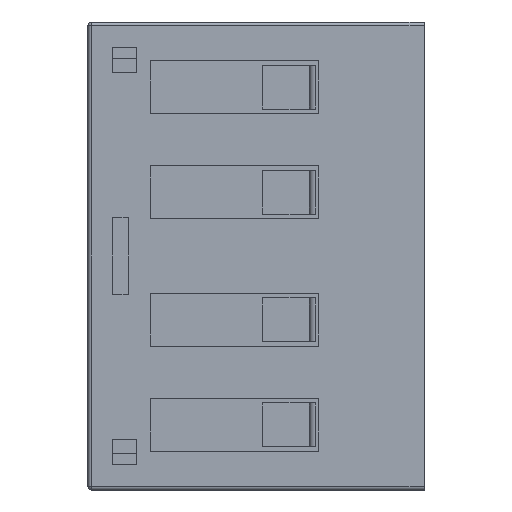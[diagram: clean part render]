
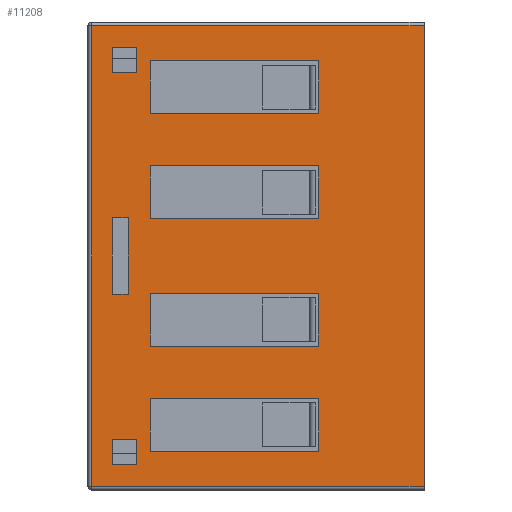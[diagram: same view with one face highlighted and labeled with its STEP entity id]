
A CAD part, left-side view. The second image highlights one B-rep face of the part: STEP entity #11208.
In plain terms, the highlighted planar face has unit normal (-1, 0, 0).
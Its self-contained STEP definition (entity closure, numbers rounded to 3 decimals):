
#326=FACE_BOUND('',#4042,.T.);
#327=FACE_BOUND('',#4043,.T.);
#328=FACE_BOUND('',#4044,.T.);
#329=FACE_BOUND('',#4045,.T.);
#330=FACE_BOUND('',#4046,.T.);
#331=FACE_BOUND('',#4047,.T.);
#332=FACE_BOUND('',#4048,.T.);
#428=LINE('',#16306,#1664);
#443=LINE('',#16339,#1679);
#456=LINE('',#16365,#1692);
#548=LINE('',#16564,#1784);
#642=LINE('',#16910,#1878);
#643=LINE('',#16911,#1879);
#644=LINE('',#16914,#1880);
#645=LINE('',#16916,#1881);
#646=LINE('',#16918,#1882);
#647=LINE('',#16919,#1883);
#648=LINE('',#16922,#1884);
#649=LINE('',#16924,#1885);
#650=LINE('',#16926,#1886);
#651=LINE('',#16927,#1887);
#652=LINE('',#16930,#1888);
#653=LINE('',#16932,#1889);
#654=LINE('',#16934,#1890);
#655=LINE('',#16935,#1891);
#656=LINE('',#16938,#1892);
#657=LINE('',#16940,#1893);
#658=LINE('',#16942,#1894);
#659=LINE('',#16943,#1895);
#660=LINE('',#16946,#1896);
#661=LINE('',#16948,#1897);
#662=LINE('',#16950,#1898);
#663=LINE('',#16951,#1899);
#664=LINE('',#16952,#1900);
#665=LINE('',#16953,#1901);
#666=LINE('',#16956,#1902);
#667=LINE('',#16958,#1903);
#668=LINE('',#16960,#1904);
#669=LINE('',#16961,#1905);
#1664=VECTOR('',#12979,1000.);
#1679=VECTOR('',#13004,1000.);
#1692=VECTOR('',#13023,1000.);
#1784=VECTOR('',#13161,1000.);
#1878=VECTOR('',#13417,1000.);
#1879=VECTOR('',#13418,1000.);
#1880=VECTOR('',#13419,1000.);
#1881=VECTOR('',#13420,1000.);
#1882=VECTOR('',#13421,1000.);
#1883=VECTOR('',#13422,1000.);
#1884=VECTOR('',#13423,1000.);
#1885=VECTOR('',#13424,1000.);
#1886=VECTOR('',#13425,1000.);
#1887=VECTOR('',#13426,1000.);
#1888=VECTOR('',#13427,1000.);
#1889=VECTOR('',#13428,1000.);
#1890=VECTOR('',#13429,1000.);
#1891=VECTOR('',#13430,1000.);
#1892=VECTOR('',#13431,1000.);
#1893=VECTOR('',#13432,1000.);
#1894=VECTOR('',#13433,1000.);
#1895=VECTOR('',#13434,1000.);
#1896=VECTOR('',#13435,1000.);
#1897=VECTOR('',#13436,1000.);
#1898=VECTOR('',#13437,1000.);
#1899=VECTOR('',#13438,1000.);
#1900=VECTOR('',#13439,1000.);
#1901=VECTOR('',#13440,1000.);
#1902=VECTOR('',#13441,1000.);
#1903=VECTOR('',#13442,1000.);
#1904=VECTOR('',#13443,1000.);
#1905=VECTOR('',#13444,1000.);
#2887=PLANE('',#11993);
#3368=FACE_OUTER_BOUND('',#4041,.T.);
#4041=EDGE_LOOP('',(#8269,#8270,#8271,#8272));
#4042=EDGE_LOOP('',(#8273,#8274,#8275,#8276));
#4043=EDGE_LOOP('',(#8277,#8278,#8279,#8280));
#4044=EDGE_LOOP('',(#8281,#8282,#8283,#8284));
#4045=EDGE_LOOP('',(#8285,#8286,#8287,#8288));
#4046=EDGE_LOOP('',(#8289,#8290,#8291,#8292));
#4047=EDGE_LOOP('',(#8293,#8294,#8295,#8296));
#4048=EDGE_LOOP('',(#8297,#8298,#8299,#8300));
#5093=VERTEX_POINT('',#16303);
#5094=VERTEX_POINT('',#16305);
#5106=VERTEX_POINT('',#16335);
#5107=VERTEX_POINT('',#16337);
#5113=VERTEX_POINT('',#16354);
#5117=VERTEX_POINT('',#16363);
#5201=VERTEX_POINT('',#16563);
#5324=VERTEX_POINT('',#16909);
#5325=VERTEX_POINT('',#16912);
#5326=VERTEX_POINT('',#16913);
#5327=VERTEX_POINT('',#16915);
#5328=VERTEX_POINT('',#16917);
#5329=VERTEX_POINT('',#16920);
#5330=VERTEX_POINT('',#16921);
#5331=VERTEX_POINT('',#16923);
#5332=VERTEX_POINT('',#16925);
#5333=VERTEX_POINT('',#16928);
#5334=VERTEX_POINT('',#16929);
#5335=VERTEX_POINT('',#16931);
#5336=VERTEX_POINT('',#16933);
#5337=VERTEX_POINT('',#16936);
#5338=VERTEX_POINT('',#16937);
#5339=VERTEX_POINT('',#16939);
#5340=VERTEX_POINT('',#16941);
#5341=VERTEX_POINT('',#16944);
#5342=VERTEX_POINT('',#16945);
#5343=VERTEX_POINT('',#16947);
#5344=VERTEX_POINT('',#16949);
#5345=VERTEX_POINT('',#16954);
#5346=VERTEX_POINT('',#16955);
#5347=VERTEX_POINT('',#16957);
#5348=VERTEX_POINT('',#16959);
#6187=EDGE_CURVE('',#5093,#5094,#428,.T.);
#6204=EDGE_CURVE('',#5106,#5107,#443,.T.);
#6217=EDGE_CURVE('',#5117,#5113,#456,.T.);
#6317=EDGE_CURVE('',#5106,#5201,#548,.T.);
#6472=EDGE_CURVE('',#5107,#5324,#642,.T.);
#6473=EDGE_CURVE('',#5324,#5201,#643,.T.);
#6474=EDGE_CURVE('',#5325,#5326,#644,.T.);
#6475=EDGE_CURVE('',#5326,#5327,#645,.T.);
#6476=EDGE_CURVE('',#5327,#5328,#646,.T.);
#6477=EDGE_CURVE('',#5328,#5325,#647,.T.);
#6478=EDGE_CURVE('',#5329,#5330,#648,.T.);
#6479=EDGE_CURVE('',#5330,#5331,#649,.T.);
#6480=EDGE_CURVE('',#5331,#5332,#650,.T.);
#6481=EDGE_CURVE('',#5332,#5329,#651,.T.);
#6482=EDGE_CURVE('',#5333,#5334,#652,.T.);
#6483=EDGE_CURVE('',#5335,#5333,#653,.T.);
#6484=EDGE_CURVE('',#5336,#5335,#654,.T.);
#6485=EDGE_CURVE('',#5334,#5336,#655,.T.);
#6486=EDGE_CURVE('',#5337,#5338,#656,.T.);
#6487=EDGE_CURVE('',#5339,#5337,#657,.T.);
#6488=EDGE_CURVE('',#5340,#5339,#658,.T.);
#6489=EDGE_CURVE('',#5338,#5340,#659,.T.);
#6490=EDGE_CURVE('',#5341,#5342,#660,.T.);
#6491=EDGE_CURVE('',#5343,#5341,#661,.T.);
#6492=EDGE_CURVE('',#5344,#5343,#662,.T.);
#6493=EDGE_CURVE('',#5342,#5344,#663,.T.);
#6494=EDGE_CURVE('',#5094,#5117,#664,.T.);
#6495=EDGE_CURVE('',#5113,#5093,#665,.T.);
#6496=EDGE_CURVE('',#5345,#5346,#666,.T.);
#6497=EDGE_CURVE('',#5347,#5345,#667,.T.);
#6498=EDGE_CURVE('',#5348,#5347,#668,.T.);
#6499=EDGE_CURVE('',#5346,#5348,#669,.T.);
#8269=ORIENTED_EDGE('',*,*,#6472,.T.);
#8270=ORIENTED_EDGE('',*,*,#6473,.T.);
#8271=ORIENTED_EDGE('',*,*,#6317,.F.);
#8272=ORIENTED_EDGE('',*,*,#6204,.T.);
#8273=ORIENTED_EDGE('',*,*,#6474,.T.);
#8274=ORIENTED_EDGE('',*,*,#6475,.T.);
#8275=ORIENTED_EDGE('',*,*,#6476,.T.);
#8276=ORIENTED_EDGE('',*,*,#6477,.T.);
#8277=ORIENTED_EDGE('',*,*,#6478,.T.);
#8278=ORIENTED_EDGE('',*,*,#6479,.T.);
#8279=ORIENTED_EDGE('',*,*,#6480,.T.);
#8280=ORIENTED_EDGE('',*,*,#6481,.T.);
#8281=ORIENTED_EDGE('',*,*,#6482,.F.);
#8282=ORIENTED_EDGE('',*,*,#6483,.F.);
#8283=ORIENTED_EDGE('',*,*,#6484,.F.);
#8284=ORIENTED_EDGE('',*,*,#6485,.F.);
#8285=ORIENTED_EDGE('',*,*,#6486,.F.);
#8286=ORIENTED_EDGE('',*,*,#6487,.F.);
#8287=ORIENTED_EDGE('',*,*,#6488,.F.);
#8288=ORIENTED_EDGE('',*,*,#6489,.F.);
#8289=ORIENTED_EDGE('',*,*,#6490,.F.);
#8290=ORIENTED_EDGE('',*,*,#6491,.F.);
#8291=ORIENTED_EDGE('',*,*,#6492,.F.);
#8292=ORIENTED_EDGE('',*,*,#6493,.F.);
#8293=ORIENTED_EDGE('',*,*,#6217,.F.);
#8294=ORIENTED_EDGE('',*,*,#6494,.F.);
#8295=ORIENTED_EDGE('',*,*,#6187,.F.);
#8296=ORIENTED_EDGE('',*,*,#6495,.F.);
#8297=ORIENTED_EDGE('',*,*,#6496,.F.);
#8298=ORIENTED_EDGE('',*,*,#6497,.F.);
#8299=ORIENTED_EDGE('',*,*,#6498,.F.);
#8300=ORIENTED_EDGE('',*,*,#6499,.F.);
#11208=ADVANCED_FACE('',(#3368,#326,#327,#328,#329,#330,#331,#332),#2887,
 .F.);
#11993=AXIS2_PLACEMENT_3D('',#16908,#13415,#13416);
#12979=DIRECTION('',(0.,0.,-1.));
#13004=DIRECTION('',(0.,1.,0.));
#13023=DIRECTION('',(0.,0.,1.));
#13161=DIRECTION('',(0.,0.,-1.));
#13415=DIRECTION('center_axis',(1.,0.,0.));
#13416=DIRECTION('ref_axis',(0.,0.,-1.));
#13417=DIRECTION('',(0.,0.,-1.));
#13418=DIRECTION('',(0.,-1.,0.));
#13419=DIRECTION('',(0.,-1.,0.));
#13420=DIRECTION('',(0.,0.,-1.));
#13421=DIRECTION('',(0.,1.,0.));
#13422=DIRECTION('',(0.,0.,1.));
#13423=DIRECTION('',(0.,-1.,0.));
#13424=DIRECTION('',(0.,0.,-1.));
#13425=DIRECTION('',(0.,1.,0.));
#13426=DIRECTION('',(0.,0.,1.));
#13427=DIRECTION('',(0.,0.,1.));
#13428=DIRECTION('',(0.,-1.,0.));
#13429=DIRECTION('',(0.,0.,-1.));
#13430=DIRECTION('',(0.,1.,0.));
#13431=DIRECTION('',(0.,0.,1.));
#13432=DIRECTION('',(0.,-1.,0.));
#13433=DIRECTION('',(0.,0.,-1.));
#13434=DIRECTION('',(0.,1.,0.));
#13435=DIRECTION('',(0.,0.,1.));
#13436=DIRECTION('',(0.,-1.,0.));
#13437=DIRECTION('',(0.,0.,-1.));
#13438=DIRECTION('',(0.,1.,0.));
#13439=DIRECTION('',(0.,-1.,0.));
#13440=DIRECTION('',(0.,1.,0.));
#13441=DIRECTION('',(0.,0.,1.));
#13442=DIRECTION('',(0.,-1.,0.));
#13443=DIRECTION('',(0.,0.,-1.));
#13444=DIRECTION('',(0.,1.,0.));
#16303=CARTESIAN_POINT('',(-36.55,11.75,17.05));
#16305=CARTESIAN_POINT('',(-36.55,11.75,15.05));
#16306=CARTESIAN_POINT('',(-36.55,11.75,15.05));
#16335=CARTESIAN_POINT('',(-36.55,-13.75,18.85));
#16337=CARTESIAN_POINT('',(-36.55,13.45,18.85));
#16339=CARTESIAN_POINT('',(-36.55,13.75,18.85));
#16354=CARTESIAN_POINT('',(-36.55,9.75,17.05));
#16363=CARTESIAN_POINT('',(-36.55,9.75,15.05));
#16365=CARTESIAN_POINT('',(-36.55,9.75,15.05));
#16563=CARTESIAN_POINT('',(-36.55,-13.75,-18.85));
#16564=CARTESIAN_POINT('',(-36.55,-13.75,19.15));
#16908=CARTESIAN_POINT('Origin',(-36.55,13.75,19.15));
#16909=CARTESIAN_POINT('',(-36.55,13.45,-18.85));
#16910=CARTESIAN_POINT('',(-36.55,13.45,19.15));
#16911=CARTESIAN_POINT('',(-36.55,13.75,-18.85));
#16912=CARTESIAN_POINT('',(-36.55,8.65,-3.075));
#16913=CARTESIAN_POINT('',(-36.55,-5.15,-3.075));
#16914=CARTESIAN_POINT('',(-36.55,8.65,-3.075));
#16915=CARTESIAN_POINT('',(-36.55,-5.15,-7.375));
#16916=CARTESIAN_POINT('',(-36.55,-5.15,-3.075));
#16917=CARTESIAN_POINT('',(-36.55,8.65,-7.375));
#16918=CARTESIAN_POINT('',(-36.55,8.65,-7.375));
#16919=CARTESIAN_POINT('',(-36.55,8.65,-3.075));
#16920=CARTESIAN_POINT('',(-36.55,8.65,-11.675));
#16921=CARTESIAN_POINT('',(-36.55,-5.15,-11.675));
#16922=CARTESIAN_POINT('',(-36.55,8.65,-11.675));
#16923=CARTESIAN_POINT('',(-36.55,-5.15,-15.975));
#16924=CARTESIAN_POINT('',(-36.55,-5.15,-11.675));
#16925=CARTESIAN_POINT('',(-36.55,8.65,-15.975));
#16926=CARTESIAN_POINT('',(-36.55,8.65,-15.975));
#16927=CARTESIAN_POINT('',(-36.55,8.65,-11.675));
#16928=CARTESIAN_POINT('',(-36.55,-5.15,3.075));
#16929=CARTESIAN_POINT('',(-36.55,-5.15,7.375));
#16930=CARTESIAN_POINT('',(-36.55,-5.15,3.075));
#16931=CARTESIAN_POINT('',(-36.55,8.65,3.075));
#16932=CARTESIAN_POINT('',(-36.55,8.65,3.075));
#16933=CARTESIAN_POINT('',(-36.55,8.65,7.375));
#16934=CARTESIAN_POINT('',(-36.55,8.65,3.075));
#16935=CARTESIAN_POINT('',(-36.55,8.65,7.375));
#16936=CARTESIAN_POINT('',(-36.55,-5.15,11.675));
#16937=CARTESIAN_POINT('',(-36.55,-5.15,15.975));
#16938=CARTESIAN_POINT('',(-36.55,-5.15,11.675));
#16939=CARTESIAN_POINT('',(-36.55,8.65,11.675));
#16940=CARTESIAN_POINT('',(-36.55,8.65,11.675));
#16941=CARTESIAN_POINT('',(-36.55,8.65,15.975));
#16942=CARTESIAN_POINT('',(-36.55,8.65,11.675));
#16943=CARTESIAN_POINT('',(-36.55,8.65,15.975));
#16944=CARTESIAN_POINT('',(-36.55,10.45,-3.15));
#16945=CARTESIAN_POINT('',(-36.55,10.45,3.15));
#16946=CARTESIAN_POINT('',(-36.55,10.45,-3.15));
#16947=CARTESIAN_POINT('',(-36.55,11.75,-3.15));
#16948=CARTESIAN_POINT('',(-36.55,11.75,-3.15));
#16949=CARTESIAN_POINT('',(-36.55,11.75,3.15));
#16950=CARTESIAN_POINT('',(-36.55,11.75,-3.15));
#16951=CARTESIAN_POINT('',(-36.55,11.75,3.15));
#16952=CARTESIAN_POINT('',(-36.55,11.75,15.05));
#16953=CARTESIAN_POINT('',(-36.55,11.75,17.05));
#16954=CARTESIAN_POINT('',(-36.55,9.75,-17.05));
#16955=CARTESIAN_POINT('',(-36.55,9.75,-15.05));
#16956=CARTESIAN_POINT('',(-36.55,9.75,-17.05));
#16957=CARTESIAN_POINT('',(-36.55,11.75,-17.05));
#16958=CARTESIAN_POINT('',(-36.55,11.75,-17.05));
#16959=CARTESIAN_POINT('',(-36.55,11.75,-15.05));
#16960=CARTESIAN_POINT('',(-36.55,11.75,-17.05));
#16961=CARTESIAN_POINT('',(-36.55,11.75,-15.05));
